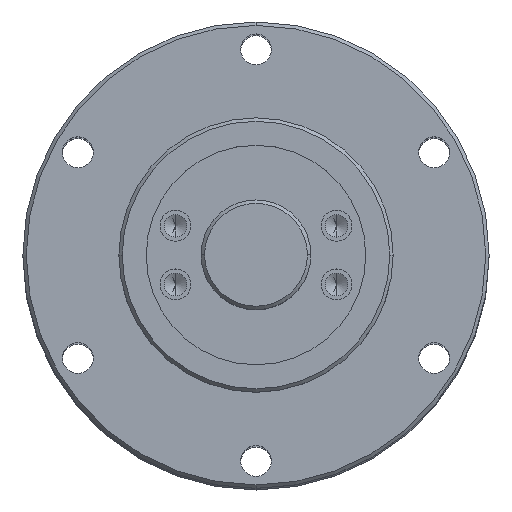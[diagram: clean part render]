
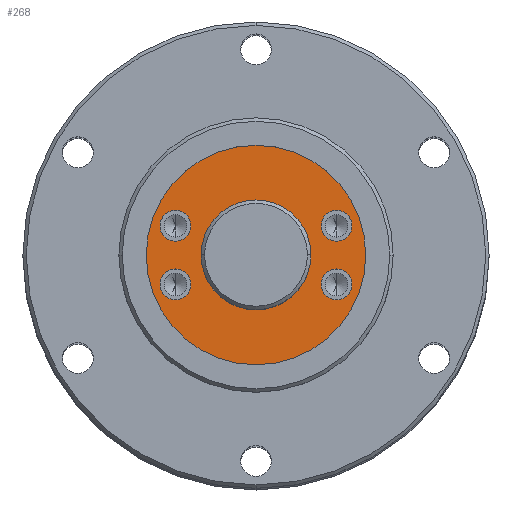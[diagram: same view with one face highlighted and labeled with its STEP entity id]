
A CAD part, top view. The second image highlights one B-rep face of the part: STEP entity #268.
In plain terms, the highlighted planar face has unit normal (0, 0, 1).
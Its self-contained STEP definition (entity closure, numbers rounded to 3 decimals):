
#5 = DIRECTION ( 'NONE',  ( 0., 0., 1. ) ) ;
#39 = ORIENTED_EDGE ( 'NONE', *, *, #2105, .F. ) ;
#56 = DIRECTION ( 'NONE',  ( 0., 0., -1. ) ) ;
#74 = CARTESIAN_POINT ( 'NONE',  ( -9.496, -4.275, 0. ) ) ;
#135 = AXIS2_PLACEMENT_3D ( 'NONE', #5203, #2571, #5635 ) ;
#142 = EDGE_CURVE ( 'NONE', #1270, #1819, #1410, .T. ) ;
#268 = ADVANCED_FACE ( 'NONE', ( #3041, #5236, #4331, #1863, #4064, #708 ), #3094, .F. ) ;
#338 = VERTEX_POINT ( 'NONE', #2741 ) ;
#358 = CARTESIAN_POINT ( 'NONE',  ( -11.746, 4.275, 0. ) ) ;
#398 = AXIS2_PLACEMENT_3D ( 'NONE', #1867, #4948, #2320 ) ;
#454 = VERTEX_POINT ( 'NONE', #625 ) ;
#461 = CARTESIAN_POINT ( 'NONE',  ( 0., 0., 0. ) ) ;
#462 = EDGE_LOOP ( 'NONE', ( #1123, #1345 ) ) ;
#482 = CARTESIAN_POINT ( 'NONE',  ( 0., 0., 0. ) ) ;
#536 = DIRECTION ( 'NONE',  ( 0., 0., 1. ) ) ;
#539 = VERTEX_POINT ( 'NONE', #1146 ) ;
#622 = CARTESIAN_POINT ( 'NONE',  ( 0., -16., 0. ) ) ;
#625 = CARTESIAN_POINT ( 'NONE',  ( 13.996, -4.275, 0. ) ) ;
#660 = AXIS2_PLACEMENT_3D ( 'NONE', #482, #3549, #935 ) ;
#705 = EDGE_CURVE ( 'NONE', #1690, #539, #986, .T. ) ;
#708 = FACE_OUTER_BOUND ( 'NONE', #462, .T. ) ;
#811 = DIRECTION ( 'NONE',  ( -1., 0., 0. ) ) ;
#901 = DIRECTION ( 'NONE',  ( 1., 0., 0. ) ) ;
#935 = DIRECTION ( 'NONE',  ( 1., 0., 0. ) ) ;
#979 = CIRCLE ( 'NONE', #398, 2.25 ) ;
#986 = CIRCLE ( 'NONE', #4679, 8. ) ;
#1006 = VERTEX_POINT ( 'NONE', #5478 ) ;
#1010 = ORIENTED_EDGE ( 'NONE', *, *, #2997, .F. ) ;
#1059 = AXIS2_PLACEMENT_3D ( 'NONE', #1240, #4294, #1674 ) ;
#1073 = ORIENTED_EDGE ( 'NONE', *, *, #142, .F. ) ;
#1123 = ORIENTED_EDGE ( 'NONE', *, *, #1194, .T. ) ;
#1146 = CARTESIAN_POINT ( 'NONE',  ( -8., 0., 0. ) ) ;
#1194 = EDGE_CURVE ( 'NONE', #1344, #2710, #1620, .T. ) ;
#1240 = CARTESIAN_POINT ( 'NONE',  ( 0., 0., 0. ) ) ;
#1270 = VERTEX_POINT ( 'NONE', #3471 ) ;
#1293 = DIRECTION ( 'NONE',  ( 0., 0., 1. ) ) ;
#1344 = VERTEX_POINT ( 'NONE', #622 ) ;
#1345 = ORIENTED_EDGE ( 'NONE', *, *, #2851, .T. ) ;
#1350 = CIRCLE ( 'NONE', #3956, 2.25 ) ;
#1399 = AXIS2_PLACEMENT_3D ( 'NONE', #3163, #536, #3586 ) ;
#1410 = CIRCLE ( 'NONE', #3906, 2.25 ) ;
#1492 = CARTESIAN_POINT ( 'NONE',  ( 9.496, -4.275, 0. ) ) ;
#1553 = EDGE_LOOP ( 'NONE', ( #39, #1899 ) ) ;
#1561 = EDGE_CURVE ( 'NONE', #1819, #1270, #4356, .T. ) ;
#1572 = DIRECTION ( 'NONE',  ( 0., 0., 1. ) ) ;
#1620 = CIRCLE ( 'NONE', #3576, 16. ) ;
#1633 = EDGE_CURVE ( 'NONE', #454, #2247, #2786, .T. ) ;
#1674 = DIRECTION ( 'NONE',  ( 0., -1., 0. ) ) ;
#1679 = DIRECTION ( 'NONE',  ( 0., 0., 1. ) ) ;
#1690 = VERTEX_POINT ( 'NONE', #2162 ) ;
#1740 = EDGE_CURVE ( 'NONE', #1006, #3680, #1350, .T. ) ;
#1819 = VERTEX_POINT ( 'NONE', #74 ) ;
#1863 = FACE_BOUND ( 'NONE', #5451, .T. ) ;
#1867 = CARTESIAN_POINT ( 'NONE',  ( 11.746, 4.275, 0. ) ) ;
#1899 = ORIENTED_EDGE ( 'NONE', *, *, #3972, .F. ) ;
#2019 = CIRCLE ( 'NONE', #5626, 2.25 ) ;
#2051 = CARTESIAN_POINT ( 'NONE',  ( -11.746, -4.275, 0. ) ) ;
#2082 = CARTESIAN_POINT ( 'NONE',  ( -13.996, 4.275, 0. ) ) ;
#2105 = EDGE_CURVE ( 'NONE', #3591, #338, #5108, .T. ) ;
#2162 = CARTESIAN_POINT ( 'NONE',  ( 8., 0., 0. ) ) ;
#2247 = VERTEX_POINT ( 'NONE', #1492 ) ;
#2320 = DIRECTION ( 'NONE',  ( 1., 0., 0. ) ) ;
#2489 = CARTESIAN_POINT ( 'NONE',  ( 13.996, 4.275, 0. ) ) ;
#2514 = DIRECTION ( 'NONE',  ( -1., 0., 0. ) ) ;
#2571 = DIRECTION ( 'NONE',  ( 0., 0., 1. ) ) ;
#2651 = CARTESIAN_POINT ( 'NONE',  ( -11.746, 4.275, 0. ) ) ;
#2710 = VERTEX_POINT ( 'NONE', #3548 ) ;
#2741 = CARTESIAN_POINT ( 'NONE',  ( 9.496, 4.275, 0. ) ) ;
#2786 = CIRCLE ( 'NONE', #135, 2.25 ) ;
#2851 = EDGE_CURVE ( 'NONE', #2710, #1344, #3850, .T. ) ;
#2985 = ORIENTED_EDGE ( 'NONE', *, *, #705, .F. ) ;
#2997 = EDGE_CURVE ( 'NONE', #539, #1690, #3301, .T. ) ;
#3041 = FACE_BOUND ( 'NONE', #4206, .T. ) ;
#3089 = DIRECTION ( 'NONE',  ( -1., 0., 0. ) ) ;
#3094 = PLANE ( 'NONE',  #3717 ) ;
#3120 = DIRECTION ( 'NONE',  ( 0., 1., 0. ) ) ;
#3163 = CARTESIAN_POINT ( 'NONE',  ( 11.746, 4.275, 0. ) ) ;
#3301 = CIRCLE ( 'NONE', #660, 8. ) ;
#3344 = CIRCLE ( 'NONE', #3695, 2.25 ) ;
#3413 = DIRECTION ( 'NONE',  ( 0., 0., 1. ) ) ;
#3471 = CARTESIAN_POINT ( 'NONE',  ( -13.996, -4.275, 0. ) ) ;
#3512 = DIRECTION ( 'NONE',  ( 0., 0., 1. ) ) ;
#3548 = CARTESIAN_POINT ( 'NONE',  ( 0., 16., 0. ) ) ;
#3549 = DIRECTION ( 'NONE',  ( 0., 0., 1. ) ) ;
#3576 = AXIS2_PLACEMENT_3D ( 'NONE', #4299, #1679, #4742 ) ;
#3586 = DIRECTION ( 'NONE',  ( 1., 0., 0. ) ) ;
#3591 = VERTEX_POINT ( 'NONE', #2489 ) ;
#3676 = ORIENTED_EDGE ( 'NONE', *, *, #1633, .F. ) ;
#3680 = VERTEX_POINT ( 'NONE', #2082 ) ;
#3695 = AXIS2_PLACEMENT_3D ( 'NONE', #358, #3413, #811 ) ;
#3717 = AXIS2_PLACEMENT_3D ( 'NONE', #4873, #56, #3120 ) ;
#3850 = CIRCLE ( 'NONE', #1059, 16. ) ;
#3899 = CARTESIAN_POINT ( 'NONE',  ( -11.746, -4.275, 0. ) ) ;
#3906 = AXIS2_PLACEMENT_3D ( 'NONE', #3899, #1293, #4332 ) ;
#3956 = AXIS2_PLACEMENT_3D ( 'NONE', #2651, #5, #3089 ) ;
#3972 = EDGE_CURVE ( 'NONE', #338, #3591, #979, .T. ) ;
#4064 = FACE_BOUND ( 'NONE', #1553, .T. ) ;
#4069 = ORIENTED_EDGE ( 'NONE', *, *, #4593, .F. ) ;
#4141 = EDGE_LOOP ( 'NONE', ( #4788, #4069 ) ) ;
#4182 = CARTESIAN_POINT ( 'NONE',  ( 11.746, -4.275, 0. ) ) ;
#4206 = EDGE_LOOP ( 'NONE', ( #2985, #1010 ) ) ;
#4294 = DIRECTION ( 'NONE',  ( 0., 0., 1. ) ) ;
#4299 = CARTESIAN_POINT ( 'NONE',  ( 0., 0., 0. ) ) ;
#4331 = FACE_BOUND ( 'NONE', #4141, .T. ) ;
#4332 = DIRECTION ( 'NONE',  ( -1., 0., 0. ) ) ;
#4356 = CIRCLE ( 'NONE', #5241, 2.25 ) ;
#4593 = EDGE_CURVE ( 'NONE', #3680, #1006, #3344, .T. ) ;
#4628 = DIRECTION ( 'NONE',  ( 1., 0., 0. ) ) ;
#4679 = AXIS2_PLACEMENT_3D ( 'NONE', #461, #3512, #901 ) ;
#4742 = DIRECTION ( 'NONE',  ( 0., -1., 0. ) ) ;
#4788 = ORIENTED_EDGE ( 'NONE', *, *, #1740, .F. ) ;
#4873 = CARTESIAN_POINT ( 'NONE',  ( 0., 16., 0. ) ) ;
#4948 = DIRECTION ( 'NONE',  ( 0., 0., 1. ) ) ;
#4960 = ORIENTED_EDGE ( 'NONE', *, *, #1561, .F. ) ;
#5108 = CIRCLE ( 'NONE', #1399, 2.25 ) ;
#5142 = DIRECTION ( 'NONE',  ( 0., 0., 1. ) ) ;
#5203 = CARTESIAN_POINT ( 'NONE',  ( 11.746, -4.275, 0. ) ) ;
#5236 = FACE_BOUND ( 'NONE', #5435, .T. ) ;
#5241 = AXIS2_PLACEMENT_3D ( 'NONE', #2051, #5142, #2514 ) ;
#5343 = ORIENTED_EDGE ( 'NONE', *, *, #5637, .F. ) ;
#5435 = EDGE_LOOP ( 'NONE', ( #4960, #1073 ) ) ;
#5451 = EDGE_LOOP ( 'NONE', ( #3676, #5343 ) ) ;
#5478 = CARTESIAN_POINT ( 'NONE',  ( -9.496, 4.275, 0. ) ) ;
#5626 = AXIS2_PLACEMENT_3D ( 'NONE', #4182, #1572, #4628 ) ;
#5635 = DIRECTION ( 'NONE',  ( 1., 0., 0. ) ) ;
#5637 = EDGE_CURVE ( 'NONE', #2247, #454, #2019, .T. ) ;
